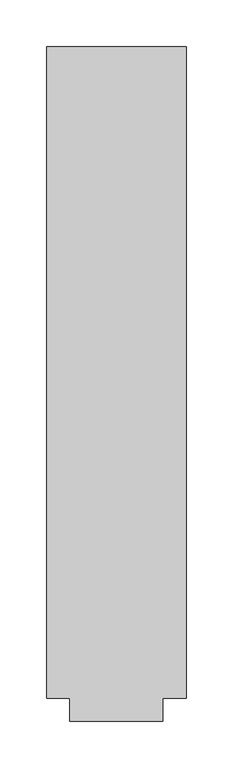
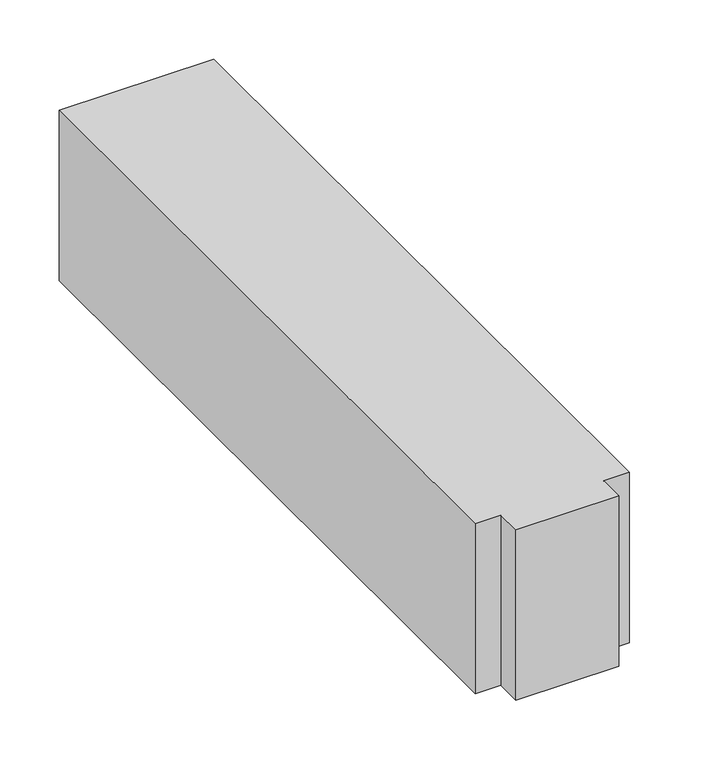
"""IFC4 building model written with IfcOpenShell, lengths in millimetres: duct fitting geometry, M_Te rectangular : Estándar."""

from ifc_helpers import new_model, si_unit, frame, origin, place, context, project, spatial, polyline, outline, extrude, source, transform, mapped, element, save


def duct_fitting_a0c25281(model_context):
    return source(origin(), model_context, "Body", "SweptSolid", [
        extrude(outline(polyline([(-75.0, -350.0), (-75.0, 350.0), (75.0, 350.0), (75.0, -350.0), (50.0, -350.0), (50.0, -375.0), (-50.0, -375.0), (-50.0, -350.0), (-75.0, -350.0)])), frame((0.0, 0.0, -87.5), z_axis=(0.0, 0.0, 1.0), x_axis=(1.0, 0.0, 0.0)), (0.0, 0.0, 1.0), 175.0),
    ])


if __name__ == "__main__":
    model = new_model("IFC4")
    model_context = context("Model", 3, world=origin())
    ifc_project = project(units=[si_unit("LENGTHUNIT", "METRE", prefix="MILLI")], contexts=[model_context])
    site = spatial("IfcSite", under=ifc_project)
    building = spatial("IfcBuilding", under=site)
    placement = place(None, origin())
    duct_fitting_shape = duct_fitting_a0c25281(model_context)
    element("IfcDuctFitting", 1, ObjectType="M_Te rectangular : Estándar", at=placement, inside=building, context=model_context, shape_type="MappedRepresentation", body=[
        mapped(duct_fitting_shape, transform((0.0, 0.0, 0.0), x_axis=(1.0, 0.0, 0.0), y_axis=(0.0, 1.0, 0.0), z_axis=(0.0, 0.0, 1.0))),
    ])
    save(model, "model.ifc")
